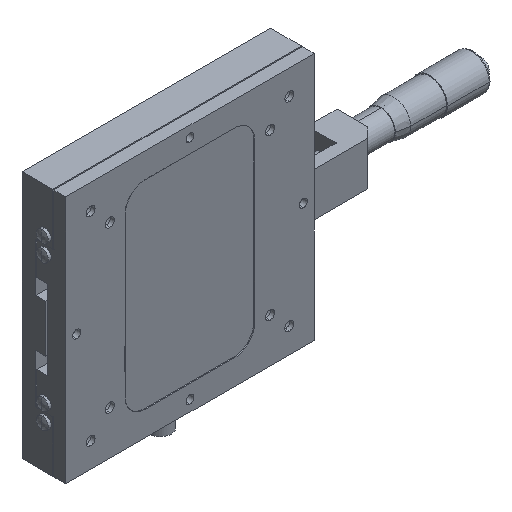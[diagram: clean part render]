
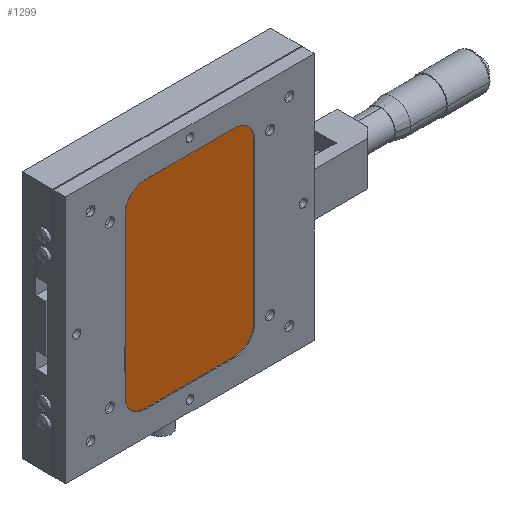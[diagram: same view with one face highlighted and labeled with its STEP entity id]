
A CAD part, isometric view. The second image highlights one B-rep face of the part: STEP entity #1299.
In plain terms, the highlighted planar face has unit normal (0, -1, 0).
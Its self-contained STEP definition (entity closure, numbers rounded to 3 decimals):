
#1069 = VERTEX_POINT ( 'NONE', #5166 ) ;
#1070 = ORIENTED_EDGE ( 'NONE', *, *, #1071, .F. ) ;
#1071 = EDGE_CURVE ( 'NONE', #1072, #1152, #5165, .T. ) ;
#1072 = VERTEX_POINT ( 'NONE', #5161 ) ;
#1073 = ORIENTED_EDGE ( 'NONE', *, *, #1074, .F. ) ;
#1074 = EDGE_CURVE ( 'NONE', #1075, #1072, #5159, .T. ) ;
#1075 = VERTEX_POINT ( 'NONE', #5160 ) ;
#1076 = ORIENTED_EDGE ( 'NONE', *, *, #1077, .F. ) ;
#1077 = EDGE_CURVE ( 'NONE', #1078, #1075, #5057, .T. ) ;
#1078 = VERTEX_POINT ( 'NONE', #5053 ) ;
#1079 = ORIENTED_EDGE ( 'NONE', *, *, #1080, .F. ) ;
#1080 = EDGE_CURVE ( 'NONE', #1081, #1078, #5052, .T. ) ;
#1081 = VERTEX_POINT ( 'NONE', #5047 ) ;
#1082 = VERTEX_POINT ( 'NONE', #5046 ) ;
#1151 = EDGE_CURVE ( 'NONE', #1152, #1069, #5307, .T. ) ;
#1152 = VERTEX_POINT ( 'NONE', #5308 ) ;
#1238 = ORIENTED_EDGE ( 'NONE', *, *, #1278, .F. ) ;
#1278 = EDGE_CURVE ( 'NONE', #1082, #1081, #5599, .T. ) ;
#1279 = ORIENTED_EDGE ( 'NONE', *, *, #1280, .F. ) ;
#1280 = EDGE_CURVE ( 'NONE', #1281, #1082, #5595, .T. ) ;
#1281 = VERTEX_POINT ( 'NONE', #5590 ) ;
#1282 = ORIENTED_EDGE ( 'NONE', *, *, #1283, .F. ) ;
#1283 = EDGE_CURVE ( 'NONE', #1069, #1281, #5589, .T. ) ;
#1299 = ADVANCED_FACE ( 'NONE', ( #5686 ), #5685, .T. ) ;
#1300 = EDGE_LOOP ( 'NONE', ( #1301, #1070, #1073, #1076, #1079, #1238, #1279, #1282 ) ) ;
#1301 = ORIENTED_EDGE ( 'NONE', *, *, #1151, .F. ) ;
#5046 = CARTESIAN_POINT ( 'NONE',  ( -22.5, 0.5, 50. ) ) ;
#5047 = CARTESIAN_POINT ( 'NONE',  ( 22.5, 0.5, 50. ) ) ;
#5048 = DIRECTION ( 'NONE',  ( 0., 0., 1. ) ) ;
#5049 = DIRECTION ( 'NONE',  ( 0., 1., 0. ) ) ;
#5050 = CARTESIAN_POINT ( 'NONE',  ( 22.5, 0.5, 40. ) ) ;
#5051 = AXIS2_PLACEMENT_3D ( 'NONE', #5050, #5049, #5048 ) ;
#5052 = CIRCLE ( 'NONE', #5051, 10. ) ;
#5053 = CARTESIAN_POINT ( 'NONE',  ( 32.5, 0.5, 40. ) ) ;
#5054 = DIRECTION ( 'NONE',  ( 0., 0., -1. ) ) ;
#5055 = VECTOR ( 'NONE', #5054, 1000. ) ;
#5056 = CARTESIAN_POINT ( 'NONE',  ( 32.5, 0.5, -40. ) ) ;
#5057 = LINE ( 'NONE', #5056, #5055 ) ;
#5155 = DIRECTION ( 'NONE',  ( 0., 0., 1. ) ) ;
#5156 = DIRECTION ( 'NONE',  ( 0., 1., 0. ) ) ;
#5157 = CARTESIAN_POINT ( 'NONE',  ( 22.5, 0.5, -40. ) ) ;
#5158 = AXIS2_PLACEMENT_3D ( 'NONE', #5157, #5156, #5155 ) ;
#5159 = CIRCLE ( 'NONE', #5158, 10. ) ;
#5160 = CARTESIAN_POINT ( 'NONE',  ( 32.5, 0.5, -40. ) ) ;
#5161 = CARTESIAN_POINT ( 'NONE',  ( 22.5, 0.5, -50. ) ) ;
#5162 = DIRECTION ( 'NONE',  ( -1., 0., 0. ) ) ;
#5163 = VECTOR ( 'NONE', #5162, 1000. ) ;
#5164 = CARTESIAN_POINT ( 'NONE',  ( 22.5, 0.5, -50. ) ) ;
#5165 = LINE ( 'NONE', #5164, #5163 ) ;
#5166 = CARTESIAN_POINT ( 'NONE',  ( -32.5, 0.5, -40. ) ) ;
#5303 = DIRECTION ( 'NONE',  ( 0., 0., 1. ) ) ;
#5304 = DIRECTION ( 'NONE',  ( 0., 1., 0. ) ) ;
#5305 = CARTESIAN_POINT ( 'NONE',  ( -22.5, 0.5, -40. ) ) ;
#5306 = AXIS2_PLACEMENT_3D ( 'NONE', #5305, #5304, #5303 ) ;
#5307 = CIRCLE ( 'NONE', #5306, 10. ) ;
#5308 = CARTESIAN_POINT ( 'NONE',  ( -22.5, 0.5, -50. ) ) ;
#5586 = DIRECTION ( 'NONE',  ( 0., 0., 1. ) ) ;
#5587 = VECTOR ( 'NONE', #5586, 1000. ) ;
#5588 = CARTESIAN_POINT ( 'NONE',  ( -32.5, 0.5, -40. ) ) ;
#5589 = LINE ( 'NONE', #5588, #5587 ) ;
#5590 = CARTESIAN_POINT ( 'NONE',  ( -32.5, 0.5, 40. ) ) ;
#5591 = DIRECTION ( 'NONE',  ( 0., 0., 1. ) ) ;
#5592 = DIRECTION ( 'NONE',  ( 0., 1., 0. ) ) ;
#5593 = CARTESIAN_POINT ( 'NONE',  ( -22.5, 0.5, 40. ) ) ;
#5594 = AXIS2_PLACEMENT_3D ( 'NONE', #5593, #5592, #5591 ) ;
#5595 = CIRCLE ( 'NONE', #5594, 10. ) ;
#5596 = DIRECTION ( 'NONE',  ( 1., 0., 0. ) ) ;
#5597 = VECTOR ( 'NONE', #5596, 1000. ) ;
#5598 = CARTESIAN_POINT ( 'NONE',  ( 22.5, 0.5, 50. ) ) ;
#5599 = LINE ( 'NONE', #5598, #5597 ) ;
#5681 = DIRECTION ( 'NONE',  ( 0., 0., 1. ) ) ;
#5682 = DIRECTION ( 'NONE',  ( 0., -1., 0. ) ) ;
#5683 = CARTESIAN_POINT ( 'NONE',  ( -22.5, 0.5, -40. ) ) ;
#5684 = AXIS2_PLACEMENT_3D ( 'NONE', #5683, #5682, #5681 ) ;
#5685 = PLANE ( 'NONE',  #5684 ) ;
#5686 = FACE_OUTER_BOUND ( 'NONE', #1300, .T. ) ;
